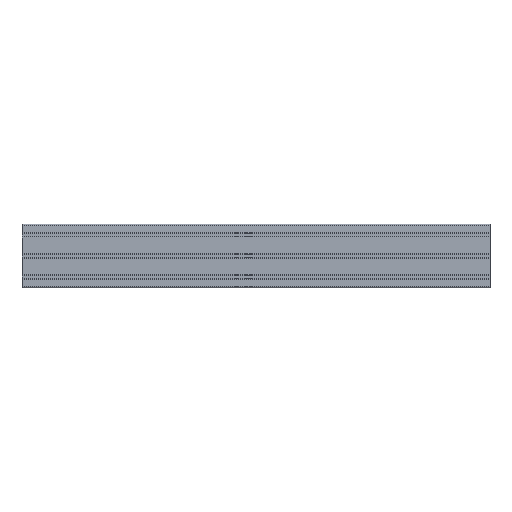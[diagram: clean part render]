
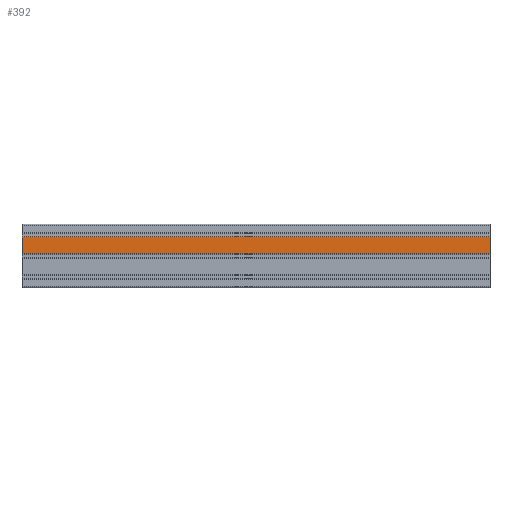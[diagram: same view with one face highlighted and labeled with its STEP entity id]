
A CAD part, top view. The second image highlights one B-rep face of the part: STEP entity #392.
In plain terms, the highlighted planar face has unit normal (0, 0, 1).
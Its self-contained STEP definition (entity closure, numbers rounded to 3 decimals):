
#156 = DIRECTION ( 'NONE',  ( 0., 1., 0. ) ) ;
#392 = ADVANCED_FACE ( 'NONE', ( #13539 ), #7535, .F. ) ;
#1048 = VERTEX_POINT ( 'NONE', #4416 ) ;
#1185 = CARTESIAN_POINT ( 'NONE',  ( 0., 40.727, 22.5 ) ) ;
#1243 = VECTOR ( 'NONE', #2475, 1000. ) ;
#1882 = CARTESIAN_POINT ( 'NONE',  ( 1000., 40.727, 22.5 ) ) ;
#2081 = CARTESIAN_POINT ( 'NONE',  ( 1000., 4.527, 22.5 ) ) ;
#2227 = VERTEX_POINT ( 'NONE', #1185 ) ;
#2475 = DIRECTION ( 'NONE',  ( 0., -1., 0. ) ) ;
#3219 = LINE ( 'NONE', #6779, #8064 ) ;
#3276 = VECTOR ( 'NONE', #5301, 1000. ) ;
#3736 = CARTESIAN_POINT ( 'NONE',  ( 1000., 40.727, 22.5 ) ) ;
#3955 = CARTESIAN_POINT ( 'NONE',  ( 1000., 4.527, 22.5 ) ) ;
#4227 = ORIENTED_EDGE ( 'NONE', *, *, #12851, .T. ) ;
#4416 = CARTESIAN_POINT ( 'NONE',  ( 0., 4.527, 22.5 ) ) ;
#4887 = ORIENTED_EDGE ( 'NONE', *, *, #7986, .F. ) ;
#5301 = DIRECTION ( 'NONE',  ( 0., -1., 0. ) ) ;
#5991 = VERTEX_POINT ( 'NONE', #3955 ) ;
#6140 = ORIENTED_EDGE ( 'NONE', *, *, #10594, .T. ) ;
#6182 = AXIS2_PLACEMENT_3D ( 'NONE', #3736, #12269, #156 ) ;
#6779 = CARTESIAN_POINT ( 'NONE',  ( 1000., 40.727, 22.5 ) ) ;
#7535 = PLANE ( 'NONE',  #6182 ) ;
#7986 = EDGE_CURVE ( 'NONE', #10851, #5991, #15182, .T. ) ;
#8064 = VECTOR ( 'NONE', #8215, 1000. ) ;
#8215 = DIRECTION ( 'NONE',  ( -1., 0., 0. ) ) ;
#9401 = LINE ( 'NONE', #2081, #15427 ) ;
#9683 = EDGE_CURVE ( 'NONE', #5991, #1048, #9401, .T. ) ;
#9732 = LINE ( 'NONE', #13382, #1243 ) ;
#9973 = ORIENTED_EDGE ( 'NONE', *, *, #9683, .F. ) ;
#10594 = EDGE_CURVE ( 'NONE', #2227, #1048, #9732, .T. ) ;
#10851 = VERTEX_POINT ( 'NONE', #13359 ) ;
#11132 = EDGE_LOOP ( 'NONE', ( #6140, #9973, #4887, #4227 ) ) ;
#12269 = DIRECTION ( 'NONE',  ( 0., 0., -1. ) ) ;
#12851 = EDGE_CURVE ( 'NONE', #10851, #2227, #3219, .T. ) ;
#13359 = CARTESIAN_POINT ( 'NONE',  ( 1000., 40.727, 22.5 ) ) ;
#13382 = CARTESIAN_POINT ( 'NONE',  ( 0., 40.727, 22.5 ) ) ;
#13539 = FACE_OUTER_BOUND ( 'NONE', #11132, .T. ) ;
#14262 = DIRECTION ( 'NONE',  ( -1., 0., 0. ) ) ;
#15182 = LINE ( 'NONE', #1882, #3276 ) ;
#15427 = VECTOR ( 'NONE', #14262, 1000. ) ;
